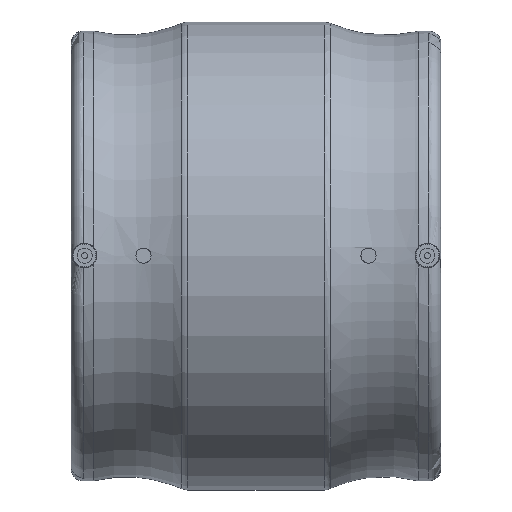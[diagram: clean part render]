
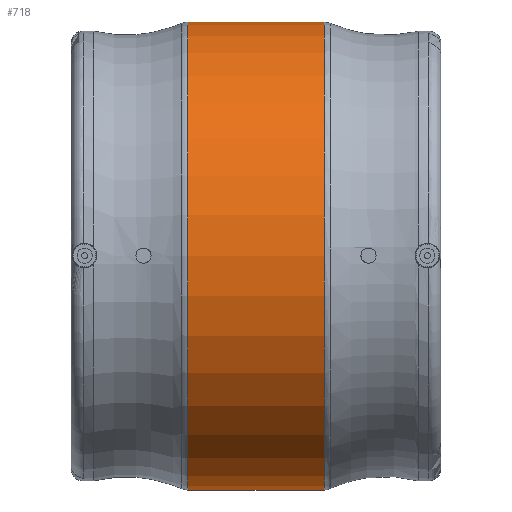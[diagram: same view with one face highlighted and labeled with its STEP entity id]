
A CAD part, top view. The second image highlights one B-rep face of the part: STEP entity #718.
In plain terms, the highlighted cylindrical face has radius 155 mm (diameter 310 mm), a full revolution.
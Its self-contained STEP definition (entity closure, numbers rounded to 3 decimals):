
#47=CYLINDRICAL_SURFACE('',#806,155.);
#232=ORIENTED_EDGE('',*,*,#368,.T.);
#233=ORIENTED_EDGE('',*,*,#369,.T.);
#368=EDGE_CURVE('',#442,#442,#490,.F.);
#369=EDGE_CURVE('',#443,#443,#491,.T.);
#442=VERTEX_POINT('',#1287);
#443=VERTEX_POINT('',#1289);
#490=CIRCLE('',#807,155.);
#491=CIRCLE('',#808,155.);
#545=EDGE_LOOP('',(#232));
#546=EDGE_LOOP('',(#233));
#625=FACE_BOUND('',#545,.T.);
#626=FACE_BOUND('',#546,.T.);
#718=ADVANCED_FACE('',(#625,#626),#47,.T.);
#806=AXIS2_PLACEMENT_3D('',#1285,#976,#977);
#807=AXIS2_PLACEMENT_3D('',#1286,#978,#979);
#808=AXIS2_PLACEMENT_3D('',#1288,#980,#981);
#976=DIRECTION('',(-1.,0.,0.));
#977=DIRECTION('',(0.,0.,1.));
#978=DIRECTION('',(1.,0.,0.));
#979=DIRECTION('',(0.,0.,-1.));
#980=DIRECTION('',(1.,0.,0.));
#981=DIRECTION('',(0.,0.,-1.));
#1285=CARTESIAN_POINT('',(-60.,0.,0.));
#1286=CARTESIAN_POINT('',(45.319,0.,0.));
#1287=CARTESIAN_POINT('',(45.319,0.,-155.));
#1288=CARTESIAN_POINT('',(-45.319,0.,0.));
#1289=CARTESIAN_POINT('',(-45.319,0.,-155.));
